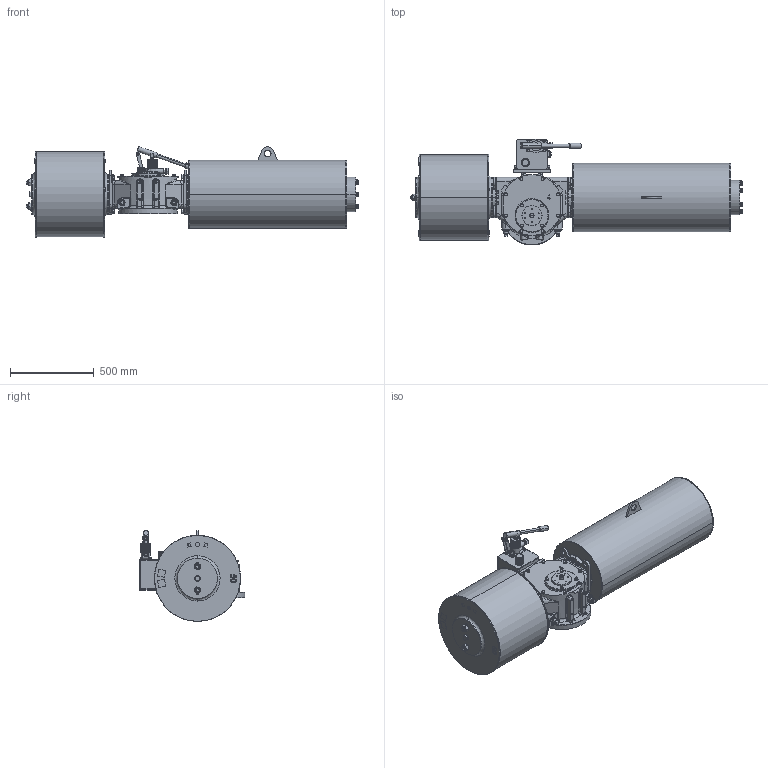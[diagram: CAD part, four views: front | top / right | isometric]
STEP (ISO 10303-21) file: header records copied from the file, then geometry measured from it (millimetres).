
FILE_DESCRIPTION (( 'STEP AP203' ), '1' );
FILE_NAME ('VTS4-500-SR-MH-FC.STEP', '2023-01-01T09:28:27', ( '' ), ( '' ), 'SwSTEP 2.0', 'SolidWorks 2020', '' );
FILE_SCHEMA (( 'CONFIG_CONTROL_DESIGN' ));
Length unit declared in the file: millimetre
Products named in the file (1): VTS4-500-SR-MH-FC
Bounding box: 1980.38 x 631.4 x 542.27 mm (x, y, z)
Volume: 245281686.6 mm3; surface area: 4478672.3 mm2
Topology: 54 solids, 57 shells, 2847 faces, 7042 edges, 4439 vertices
Faces by surface type: plane 1177, cylinder 979, cone 551, bspline 112, torus 28
Entity records: 97972 total; most frequent: CARTESIAN_POINT 30627, DIRECTION 14308, ORIENTED_EDGE 13900, EDGE_CURVE 6950, AXIS2_PLACEMENT_3D 5612, VERTEX_POINT 4439, EDGE_LOOP 3221, LINE 3084
